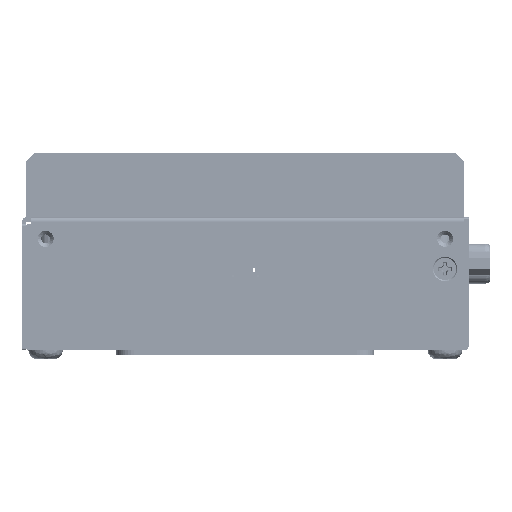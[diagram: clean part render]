
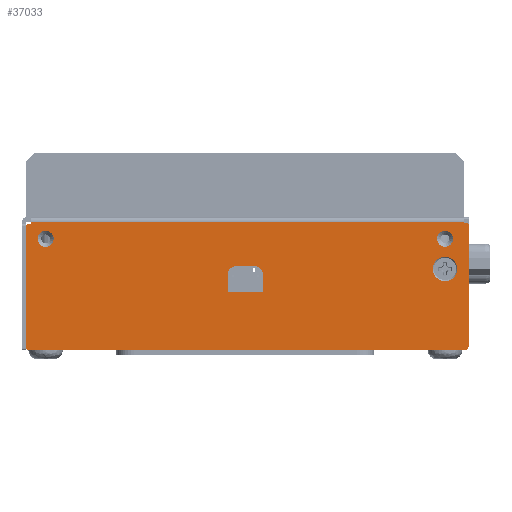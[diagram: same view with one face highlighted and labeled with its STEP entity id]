
A CAD part, left-side view. The second image highlights one B-rep face of the part: STEP entity #37033.
In plain terms, the highlighted planar face has unit normal (-1, 0, 0).
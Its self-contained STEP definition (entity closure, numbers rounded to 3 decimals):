
#6405=CARTESIAN_POINT('',(-52.,98.5,26.));
#6406=DIRECTION('',(1.,0.,0.));
#6407=DIRECTION('',(0.,1.,0.));
#6408=AXIS2_PLACEMENT_3D('',#6405,#6406,#6407);
#6410=CARTESIAN_POINT('',(-52.,98.5,26.));
#6411=DIRECTION('',(1.,0.,0.));
#6412=DIRECTION('',(0.,-1.,0.));
#6413=AXIS2_PLACEMENT_3D('',#6410,#6411,#6412);
#6415=CARTESIAN_POINT('',(-52.,5.5,26.));
#6416=DIRECTION('',(1.,0.,0.));
#6417=DIRECTION('',(0.,1.,0.));
#6418=AXIS2_PLACEMENT_3D('',#6415,#6416,#6417);
#6420=CARTESIAN_POINT('',(-52.,5.5,26.));
#6421=DIRECTION('',(1.,0.,0.));
#6422=DIRECTION('',(0.,-1.,0.));
#6423=AXIS2_PLACEMENT_3D('',#6420,#6421,#6422);
#6425=CARTESIAN_POINT('',(-52.,5.5,19.));
#6426=DIRECTION('',(1.,0.,0.));
#6427=DIRECTION('',(0.,1.,0.));
#6428=AXIS2_PLACEMENT_3D('',#6425,#6426,#6427);
#6430=CARTESIAN_POINT('',(-52.,5.5,19.));
#6431=DIRECTION('',(1.,0.,0.));
#6432=DIRECTION('',(0.,-1.,0.));
#6433=AXIS2_PLACEMENT_3D('',#6430,#6431,#6432);
#6435=CARTESIAN_POINT('',(-52.,49.875,17.65));
#6436=DIRECTION('',(1.,0.,0.));
#6437=DIRECTION('',(0.,0.,1.));
#6438=AXIS2_PLACEMENT_3D('',#6435,#6436,#6437);
#6440=CARTESIAN_POINT('',(-52.,54.125,17.65));
#6441=DIRECTION('',(1.,0.,0.));
#6442=DIRECTION('',(0.,1.,0.));
#6443=AXIS2_PLACEMENT_3D('',#6440,#6441,#6442);
#6445=DIRECTION('',(0.,-1.,0.));
#6446=VECTOR('',#6445,20.49);
#6447=CARTESIAN_POINT('',(-52.,102.49,0.));
#6448=LINE('',#6447,#6446);
#6449=CARTESIAN_POINT('',(-52.,102.49,0.5));
#6450=DIRECTION('',(-1.,0.,0.));
#6451=DIRECTION('',(0.,1.,0.));
#6452=AXIS2_PLACEMENT_3D('',#6449,#6450,#6451);
#6454=CARTESIAN_POINT('',(-52.,102.49,29.));
#6455=DIRECTION('',(-1.,0.,0.));
#6456=DIRECTION('',(0.,0.,1.));
#6457=AXIS2_PLACEMENT_3D('',#6454,#6455,#6456);
#6459=CARTESIAN_POINT('',(-52.,0.5,29.2));
#6460=DIRECTION('',(-1.,0.,0.));
#6461=DIRECTION('',(0.,-1.,0.));
#6462=AXIS2_PLACEMENT_3D('',#6459,#6460,#6461);
#6464=CARTESIAN_POINT('',(-52.,1.,1.));
#6465=DIRECTION('',(-1.,0.,0.));
#6466=DIRECTION('',(0.,0.,-1.));
#6467=AXIS2_PLACEMENT_3D('',#6464,#6465,#6466);
#6469=DIRECTION('',(0.,-1.,0.));
#6470=VECTOR('',#6469,21.);
#6471=CARTESIAN_POINT('',(-52.,22.,0.));
#6472=LINE('',#6471,#6470);
#6473=DIRECTION('',(0.,1.,0.));
#6474=VECTOR('',#6473,60.);
#6475=CARTESIAN_POINT('',(-52.,22.,0.));
#6476=LINE('',#6475,#6474);
#6699=DIRECTION('',(0.,-1.,0.));
#6700=VECTOR('',#6699,4.25);
#6701=CARTESIAN_POINT('',(-52.,54.125,19.65));
#6702=LINE('',#6701,#6700);
#6719=DIRECTION('',(0.,0.,1.));
#6720=VECTOR('',#6719,4.);
#6721=CARTESIAN_POINT('',(-52.,56.125,13.65));
#6722=LINE('',#6721,#6720);
#6723=DIRECTION('',(0.,1.,0.));
#6724=VECTOR('',#6723,8.25);
#6725=CARTESIAN_POINT('',(-52.,47.875,13.65));
#6726=LINE('',#6725,#6724);
#6735=DIRECTION('',(0.,0.,-1.));
#6736=VECTOR('',#6735,4.);
#6737=CARTESIAN_POINT('',(-52.,47.875,17.65));
#6738=LINE('',#6737,#6736);
#6763=DIRECTION('',(0.,0.,-1.));
#6764=VECTOR('',#6763,28.2);
#6765=CARTESIAN_POINT('',(-52.,0.,29.2));
#6766=LINE('',#6765,#6764);
#6779=DIRECTION('',(0.,-1.,0.));
#6780=VECTOR('',#6779,0.55);
#6781=CARTESIAN_POINT('',(-52.,1.05,29.7));
#6782=LINE('',#6781,#6780);
#6808=DIRECTION('',(0.,0.,1.));
#6809=VECTOR('',#6808,0.3);
#6810=CARTESIAN_POINT('',(-52.,1.05,29.7));
#6811=LINE('',#6810,#6809);
#6857=DIRECTION('',(0.,-1.,0.));
#6858=VECTOR('',#6857,100.95);
#6859=CARTESIAN_POINT('',(-52.,102.,30.));
#6860=LINE('',#6859,#6858);
#9370=DIRECTION('',(0.,0.,-1.));
#9371=VECTOR('',#9370,0.5);
#9372=CARTESIAN_POINT('',(-52.,102.,30.));
#9373=LINE('',#9372,#9371);
#9390=DIRECTION('',(0.,-1.,0.));
#9391=VECTOR('',#9390,0.49);
#9392=CARTESIAN_POINT('',(-52.,102.49,29.5));
#9393=LINE('',#9392,#9391);
#9406=DIRECTION('',(0.,0.,-1.));
#9407=VECTOR('',#9406,28.5);
#9408=CARTESIAN_POINT('',(-52.,102.99,29.));
#9409=LINE('',#9408,#9407);
#21452=CARTESIAN_POINT('',(-52.,102.49,0.));
#21454=VERTEX_POINT('',#21452);
#21455=CARTESIAN_POINT('',(-52.,1.,0.));
#21457=VERTEX_POINT('',#21455);
#21621=CARTESIAN_POINT('',(-52.,102.99,0.5));
#21622=VERTEX_POINT('',#21621);
#21623=CARTESIAN_POINT('',(-52.,102.99,29.));
#21624=VERTEX_POINT('',#21623);
#21625=CARTESIAN_POINT('',(-52.,102.49,29.5));
#21626=VERTEX_POINT('',#21625);
#21627=CARTESIAN_POINT('',(-52.,102.,29.5));
#21628=VERTEX_POINT('',#21627);
#21629=CARTESIAN_POINT('',(-52.,102.,30.));
#21630=VERTEX_POINT('',#21629);
#21631=CARTESIAN_POINT('',(-52.,1.05,30.));
#21632=VERTEX_POINT('',#21631);
#21633=CARTESIAN_POINT('',(-52.,1.05,29.7));
#21634=VERTEX_POINT('',#21633);
#21635=CARTESIAN_POINT('',(-52.,0.5,29.7));
#21636=VERTEX_POINT('',#21635);
#21637=CARTESIAN_POINT('',(-52.,0.,29.2));
#21638=VERTEX_POINT('',#21637);
#21639=CARTESIAN_POINT('',(-52.,0.,1.));
#21640=VERTEX_POINT('',#21639);
#21641=CARTESIAN_POINT('',(-52.,100.363,26.));
#21642=CARTESIAN_POINT('',(-52.,96.637,26.));
#21643=VERTEX_POINT('',#21641);
#21644=VERTEX_POINT('',#21642);
#21645=CARTESIAN_POINT('',(-52.,7.363,26.));
#21646=CARTESIAN_POINT('',(-52.,3.637,26.));
#21647=VERTEX_POINT('',#21645);
#21648=VERTEX_POINT('',#21646);
#21649=CARTESIAN_POINT('',(-52.,8.35,19.));
#21650=CARTESIAN_POINT('',(-52.,2.65,19.));
#21651=VERTEX_POINT('',#21649);
#21652=VERTEX_POINT('',#21650);
#21653=CARTESIAN_POINT('',(-52.,47.875,17.65));
#21654=CARTESIAN_POINT('',(-52.,47.875,13.65));
#21655=VERTEX_POINT('',#21653);
#21656=VERTEX_POINT('',#21654);
#21657=CARTESIAN_POINT('',(-52.,49.875,19.65));
#21658=VERTEX_POINT('',#21657);
#21659=CARTESIAN_POINT('',(-52.,54.125,19.65));
#21660=VERTEX_POINT('',#21659);
#21661=CARTESIAN_POINT('',(-52.,56.125,17.65));
#21662=VERTEX_POINT('',#21661);
#21663=CARTESIAN_POINT('',(-52.,56.125,13.65));
#21664=VERTEX_POINT('',#21663);
#24337=CARTESIAN_POINT('',(-52.,22.,0.));
#24339=VERTEX_POINT('',#24337);
#24341=CARTESIAN_POINT('',(-52.,82.,0.));
#24343=VERTEX_POINT('',#24341);
#36968=CARTESIAN_POINT('',(-52.,51.495,15.));
#36969=DIRECTION('',(1.,0.,0.));
#36970=DIRECTION('',(0.,-1.,0.));
#36971=AXIS2_PLACEMENT_3D('',#36968,#36969,#36970);
#36972=PLANE('',#36971);
#36973=ORIENTED_EDGE('',*,*,#36956,.F.);
#36975=ORIENTED_EDGE('',*,*,#36974,.F.);
#36977=ORIENTED_EDGE('',*,*,#36976,.F.);
#36979=ORIENTED_EDGE('',*,*,#36978,.F.);
#36981=ORIENTED_EDGE('',*,*,#36980,.T.);
#36983=ORIENTED_EDGE('',*,*,#36982,.F.);
#36985=ORIENTED_EDGE('',*,*,#36984,.T.);
#36987=ORIENTED_EDGE('',*,*,#36986,.F.);
#36989=ORIENTED_EDGE('',*,*,#36988,.T.);
#36991=ORIENTED_EDGE('',*,*,#36990,.F.);
#36993=ORIENTED_EDGE('',*,*,#36992,.T.);
#36995=ORIENTED_EDGE('',*,*,#36994,.F.);
#36996=ORIENTED_EDGE('',*,*,#36929,.F.);
#36998=ORIENTED_EDGE('',*,*,#36997,.T.);
#36999=EDGE_LOOP('',(#36973,#36975,#36977,#36979,#36981,#36983,#36985,#36987,
#36989,#36991,#36993,#36995,#36996,#36998));
#37000=FACE_OUTER_BOUND('',#36999,.F.);
#37002=ORIENTED_EDGE('',*,*,#37001,.F.);
#37004=ORIENTED_EDGE('',*,*,#37003,.F.);
#37005=EDGE_LOOP('',(#37002,#37004));
#37006=FACE_BOUND('',#37005,.F.);
#37008=ORIENTED_EDGE('',*,*,#37007,.F.);
#37010=ORIENTED_EDGE('',*,*,#37009,.F.);
#37011=EDGE_LOOP('',(#37008,#37010));
#37012=FACE_BOUND('',#37011,.F.);
#37014=ORIENTED_EDGE('',*,*,#37013,.F.);
#37016=ORIENTED_EDGE('',*,*,#37015,.F.);
#37018=ORIENTED_EDGE('',*,*,#37017,.F.);
#37020=ORIENTED_EDGE('',*,*,#37019,.F.);
#37022=ORIENTED_EDGE('',*,*,#37021,.F.);
#37024=ORIENTED_EDGE('',*,*,#37023,.F.);
#37025=EDGE_LOOP('',(#37014,#37016,#37018,#37020,#37022,#37024));
#37026=FACE_BOUND('',#37025,.F.);
#37028=ORIENTED_EDGE('',*,*,#37027,.F.);
#37030=ORIENTED_EDGE('',*,*,#37029,.F.);
#37031=EDGE_LOOP('',(#37028,#37030));
#37032=FACE_BOUND('',#37031,.F.);
#37033=ADVANCED_FACE('',(#37000,#37006,#37012,#37026,#37032),#36972,.F.);
#6409=CIRCLE('',#6408,1.863);
#6414=CIRCLE('',#6413,1.863);
#6419=CIRCLE('',#6418,1.863);
#6424=CIRCLE('',#6423,1.863);
#6429=CIRCLE('',#6428,2.85);
#6434=CIRCLE('',#6433,2.85);
#6439=CIRCLE('',#6438,2.);
#6444=CIRCLE('',#6443,2.);
#6453=CIRCLE('',#6452,0.5);
#6458=CIRCLE('',#6457,0.5);
#6463=CIRCLE('',#6462,0.5);
#6468=CIRCLE('',#6467,1.);
#36929=EDGE_CURVE('',#24339,#21457,#6472,.T.);
#36956=EDGE_CURVE('',#21454,#24343,#6448,.T.);
#36974=EDGE_CURVE('',#21622,#21454,#6453,.T.);
#36976=EDGE_CURVE('',#21624,#21622,#9409,.T.);
#36978=EDGE_CURVE('',#21626,#21624,#6458,.T.);
#36980=EDGE_CURVE('',#21626,#21628,#9393,.T.);
#36982=EDGE_CURVE('',#21630,#21628,#9373,.T.);
#36984=EDGE_CURVE('',#21630,#21632,#6860,.T.);
#36986=EDGE_CURVE('',#21634,#21632,#6811,.T.);
#36988=EDGE_CURVE('',#21634,#21636,#6782,.T.);
#36990=EDGE_CURVE('',#21638,#21636,#6463,.T.);
#36992=EDGE_CURVE('',#21638,#21640,#6766,.T.);
#36994=EDGE_CURVE('',#21457,#21640,#6468,.T.);
#36997=EDGE_CURVE('',#24339,#24343,#6476,.T.);
#37001=EDGE_CURVE('',#21647,#21648,#6419,.T.);
#37003=EDGE_CURVE('',#21648,#21647,#6424,.T.);
#37007=EDGE_CURVE('',#21651,#21652,#6429,.T.);
#37009=EDGE_CURVE('',#21652,#21651,#6434,.T.);
#37013=EDGE_CURVE('',#21655,#21656,#6738,.T.);
#37015=EDGE_CURVE('',#21658,#21655,#6439,.T.);
#37017=EDGE_CURVE('',#21660,#21658,#6702,.T.);
#37019=EDGE_CURVE('',#21662,#21660,#6444,.T.);
#37021=EDGE_CURVE('',#21664,#21662,#6722,.T.);
#37023=EDGE_CURVE('',#21656,#21664,#6726,.T.);
#37027=EDGE_CURVE('',#21643,#21644,#6409,.T.);
#37029=EDGE_CURVE('',#21644,#21643,#6414,.T.);
